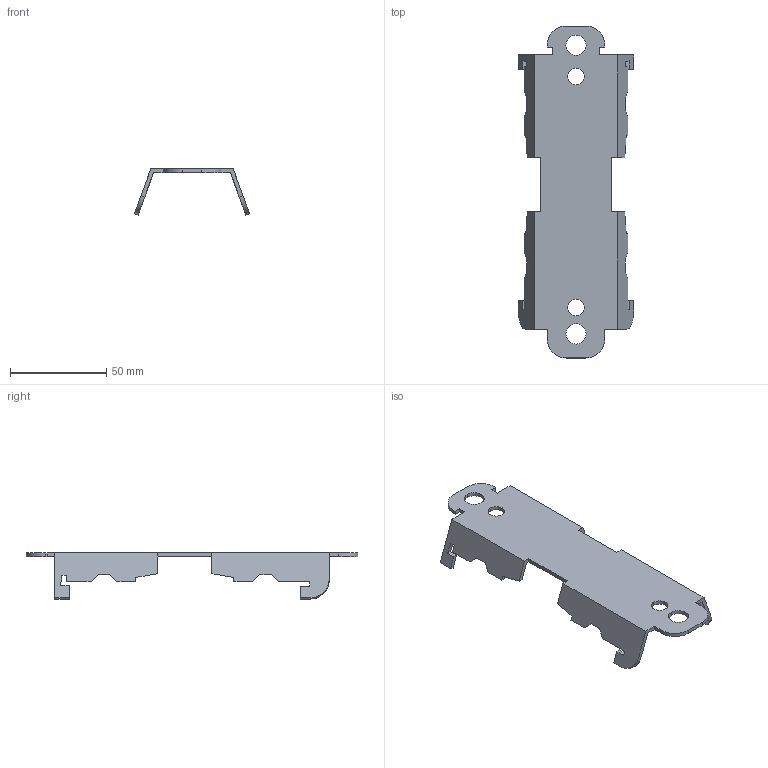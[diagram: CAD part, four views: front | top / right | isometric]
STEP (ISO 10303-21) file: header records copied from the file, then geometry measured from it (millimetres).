
FILE_DESCRIPTION (( 'STEP AP214' ), '1' );
FILE_NAME ('080043-4314-11 Systemhalter.STEP', '2013-01-17T08:42:39', ( '' ), ( '' ), 'SwSTEP 2.0', 'SolidWorks 2012', '' );
FILE_SCHEMA (( 'AUTOMOTIVE_DESIGN' ));
Length unit declared in the file: millimetre
Products named in the file (1): 080043-4314-11 Systemhalter
Bounding box: 59.82 x 172.5 x 24.06 mm (x, y, z)
Volume: 19346.6 mm3; surface area: 20961.9 mm2
Topology: 1 solids, 1 shells, 92 faces, 270 edges, 180 vertices
Faces by surface type: plane 78, cylinder 14
Entity records: 3072 total; most frequent: CARTESIAN_POINT 543, ORIENTED_EDGE 540, DIRECTION 484, EDGE_CURVE 270, VECTOR 242, LINE 242, VERTEX_POINT 180, AXIS2_PLACEMENT_3D 121
